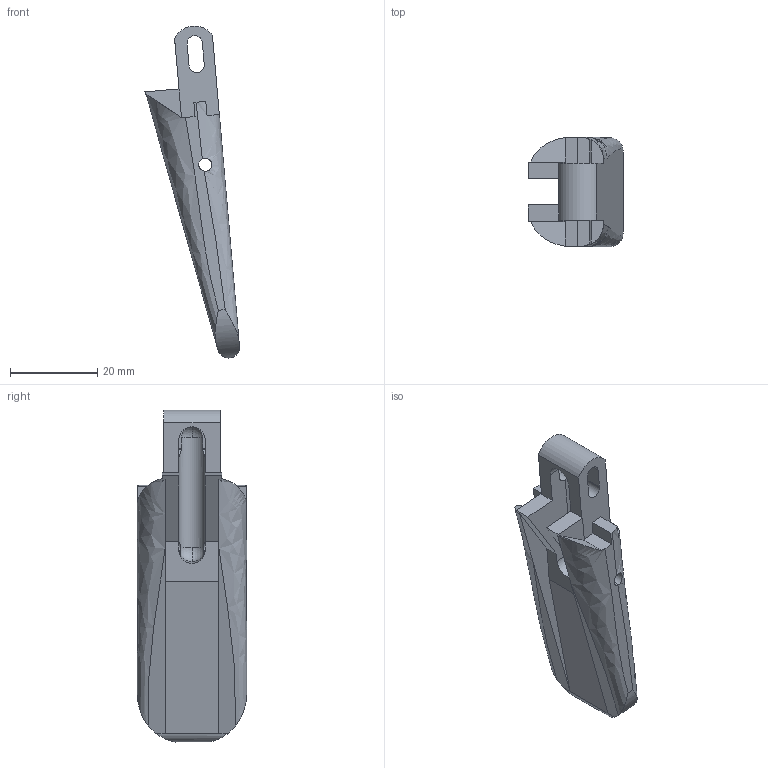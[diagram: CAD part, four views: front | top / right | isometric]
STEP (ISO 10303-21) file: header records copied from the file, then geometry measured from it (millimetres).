
FILE_DESCRIPTION (( 'STEP AP203' ), '1' );
FILE_NAME ('43X 93R Style hand nub MK1.STEP', '2020-12-17T02:51:23', ( '' ), ( '' ), 'SwSTEP 2.0', 'SolidWorks 2016', '' );
FILE_SCHEMA (( 'CONFIG_CONTROL_DESIGN' ));
Length unit declared in the file: millimetre
Products named in the file (1): 43X 93R Style hand nub MK1
Bounding box: 21.76 x 25 x 76.02 mm (x, y, z)
Volume: 12343 mm3; surface area: 5941.5 mm2
Topology: 1 solids, 1 shells, 63 faces, 194 edges, 127 vertices
Faces by surface type: plane 37, cylinder 18, sphere 4, bspline 4
Entity records: 2641 total; most frequent: CARTESIAN_POINT 922, ORIENTED_EDGE 388, DIRECTION 292, EDGE_CURVE 194, VERTEX_POINT 127, VECTOR 106, LINE 106, AXIS2_PLACEMENT_3D 93
